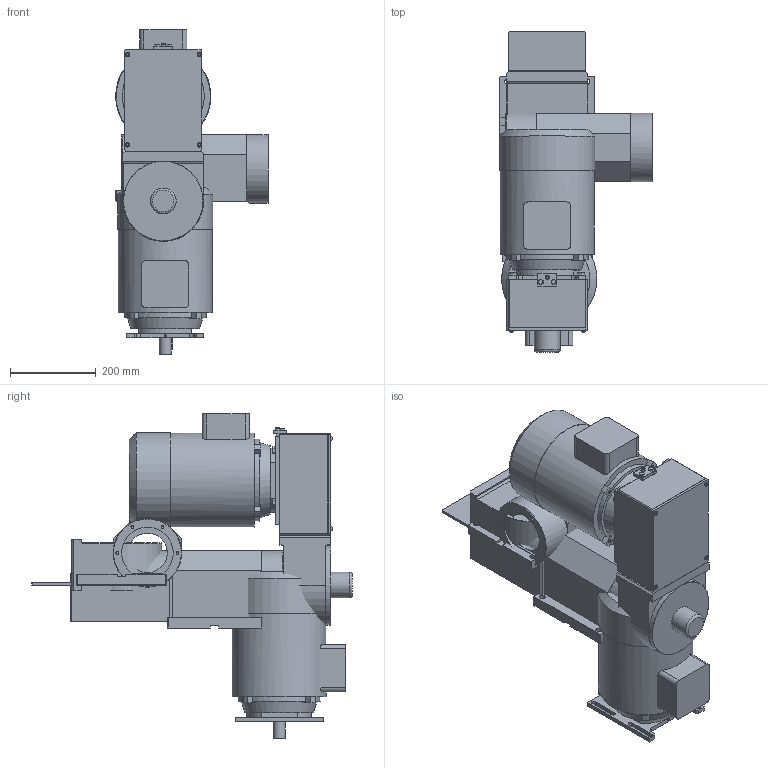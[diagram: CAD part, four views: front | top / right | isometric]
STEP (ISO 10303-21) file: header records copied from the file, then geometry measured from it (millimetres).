
FILE_DESCRIPTION( ( 'STEP AP203' ), '1' );
FILE_NAME( 'C:/Documents and Settings/Saverio/Desktop/disegni ironcad/MANDRINI FISSI/MF40/MF 40_A.stp', '2014-03-25T15:07:11', ( ' ' ), ( ' ' ), 'XStep 1.0', ' ', ' ' );
FILE_SCHEMA( ( 'CONFIG_CONTROL_DESIGN' ) );
Length unit declared in the file: metre
Products named in the file (34): Assem1; 1; 2; 3; 4; 5; 6; 7; 8; 9; 10; 11; 12; 13; 14; 15; 16; 17; 18; 19; 20; 21; 22; 23; 24; 25; 26; 27; 28; 29; 30; 31; 32; 33
Bounding box: 356 x 745.5 x 755.77 mm (x, y, z)
Volume: 57865209.4 mm3; surface area: 2929303.5 mm2
Topology: 66 solids, 66 shells, 1474 faces, 3250 edges, 2030 vertices
Faces by surface type: plane 930, cone 266, cylinder 248, torus 18, bspline 12
Full cylindrical faces by diameter (mm): 5 x10, 6 x18, 6.5 x6, 6.637 x8, 6.647 x8, 6.75 x12, 8 x12, 8.366 x2, 8.5 x20, 9.87 x6, 10 x8, 10.25 x8, 10.5 x4, 13 x20, 13.5 x12, 28 x2, 36.4 x2, 60 x2, 70 x2, 88 x2, 88.882 x2, 89.4 x2, 92 x2, 94.7 x2, 110 x2, 120 x2, 160 x6, 164 x2, 186 x2, 219.78 x2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
Entity records: 20558 total; most frequent: CARTESIAN_POINT 3926, DIRECTION 3184, ORIENTED_EDGE 2698, EDGE_CURVE 1349, AXIS2_PLACEMENT_3D 1173, EDGE_LOOP 1036, VERTEX_POINT 961, FACE_OUTER_BOUND 842
